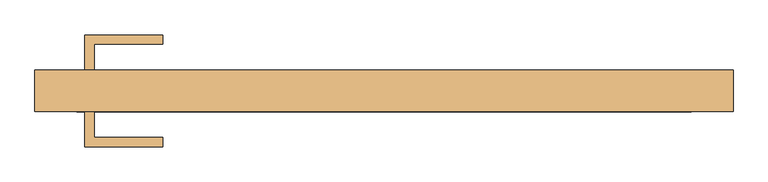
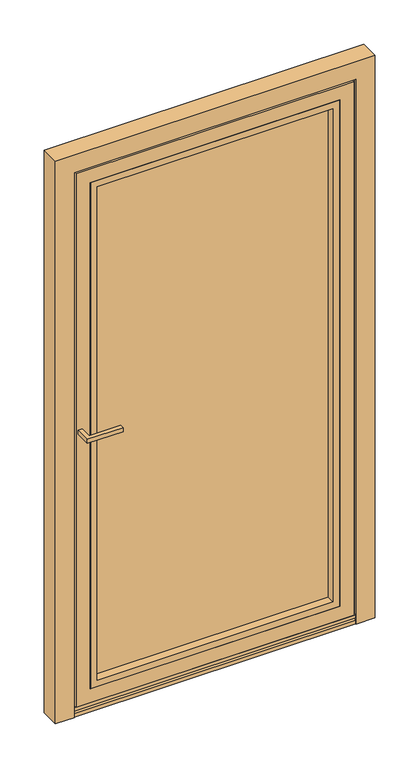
"""IFC4 building model written with IfcOpenShell, lengths in millimetres: door geometry, Reynaers_CS 77_Door_Panel_Outward Opening_Single Vent_One Sided : Reynaers_CS 77_Door_Panel_Outward Opening_Single Vent_One Sided."""

from ifc_helpers import new_model, si_unit, point, frame, frame_2d, origin, place, context, project, spatial, polyline, circle_curve, trimmed, segment, composite_curve, outline, extrude, faceted_brep, source, transform, mapped, element, save


def door_eae7a023(model_context):
    return source(origin(), model_context, "Body", "SolidModel", [
        extrude(outline(polyline([(-488.5, 42.5), (-488.5, 100.0), (-361.0, 100.0), (-361.0, 85.0), (-473.5, 85.0), (-473.5, 42.5), (-488.5, 42.5)])), frame((0.0, 0.0, 1062.5), z_axis=(0.0, 0.0, 1.0), x_axis=(1.0, 0.0, 0.0)), (0.0, 0.0, 1.0), 15.0),
        extrude(outline(polyline([(-488.5, -25.5), (-473.5, -25.5), (-473.5, -68.0), (-361.0, -68.0), (-361.0, -83.0), (-488.5, -83.0), (-488.5, -25.5)])), frame((0.0, 0.0, 1062.5), z_axis=(0.0, 0.0, 1.0), x_axis=(1.0, 0.0, 0.0)), (0.0, 0.0, 1.0), 15.0),
        extrude(outline(polyline([(522.0, 39.5), (-522.0, 39.5), (-522.0, 42.5), (522.0, 42.5), (522.0, 39.5)])), frame((0.0, 0.0, 10.5), z_axis=(0.0, 0.0, 1.0), x_axis=(1.0, 0.0, 0.0)), (0.0, 0.0, 1.0), 2061.5),
        extrude(outline(polyline([(439.0, 4.7), (-439.0, 4.7), (-439.0, 39.5), (439.0, 39.5), (439.0, 4.7)])), frame((0.0, 0.0, 93.5), z_axis=(0.0, 0.0, 1.0), x_axis=(1.0, 0.0, 0.0)), (0.0, 0.0, 1.0), 1895.5),
        faceted_brep([(445.0, -25.5, 1995.0), (445.0, 39.1, 1995.0), (445.0, 39.1, 87.5), (445.0, -25.5, 87.5), (495.9994981, 39.1, 2045.9994981), (495.9994981, 39.1, 36.5005019), (-495.9994981, 39.1, 36.5005019), (-495.9994981, 39.1, 2045.9994981), (-445.0, 39.1, 1995.0), (-445.0, 39.1, 87.5), (-445.0, -25.5, 87.5), (-496.0, -25.5, 2046.0), (-496.0, -25.5, 36.5), (496.0, -25.5, 36.5), (496.0, -25.5, 2046.0), (-445.0, -25.5, 1995.0), (496.0, -16.7, 2046.0), (496.0, -16.7, 36.5), (-496.0, -16.7, 36.5), (-507.0, -16.7, 2057.0), (-507.0, -16.7, 25.5), (507.0, -16.7, 25.5), (507.0, -16.7, 2057.0), (-496.0, -16.7, 2046.0), (-507.0, 33.7, 25.5), (-507.0, 33.7, 2057.0), (507.0, 33.7, 25.5), (507.0, 33.7, 2057.0), (-495.9994981, 33.7, 2045.9994981), (-495.9994981, 33.7, 36.5005019), (495.9994981, 33.7, 36.5005019), (495.9994981, 33.7, 2045.9994981)], [[[0, 1, 2, 3]], [[4, 5, 6, 7], [8, 9, 2, 1]], [[3, 2, 9, 10]], [[11, 12, 13, 14], [0, 3, 10, 15]], [[16, 14, 13, 17]], [[17, 13, 12, 18]], [[19, 20, 21, 22], [16, 17, 18, 23]], [[10, 9, 8, 15]], [[18, 12, 11, 23]], [[24, 20, 19, 25]], [[26, 21, 20, 24]], [[27, 22, 21, 26]], [[27, 26, 24, 25], [28, 29, 30, 31]], [[4, 31, 30, 5]], [[5, 30, 29, 6]], [[6, 29, 28, 7]], [[15, 8, 1, 0]], [[23, 11, 14, 16]], [[25, 19, 22, 27]], [[7, 28, 31, 4]]]),
        faceted_brep([(420.0, -25.5, 1970.0), (420.0, 4.7003, 1970.0), (420.0, 4.7003, 112.5), (420.0, -25.5, 112.5), (444.0, 4.7003, 1994.0), (444.0, 4.7003, 88.5), (-444.0, 4.7003, 88.5), (-444.0, 4.7003, 1994.0), (-420.0, 4.7003, 1970.0), (-420.0, 4.7003, 112.5), (-420.0, -25.5, 112.5), (-444.0, -25.5, 1994.0), (-444.0, -25.5, 88.5), (444.0, -25.5, 88.5), (444.0, -25.5, 1994.0), (-420.0, -25.5, 1970.0)], [[[0, 1, 2, 3]], [[4, 5, 6, 7], [8, 9, 2, 1]], [[3, 2, 9, 10]], [[11, 12, 13, 14], [0, 3, 10, 15]], [[4, 14, 13, 5]], [[5, 13, 12, 6]], [[10, 9, 8, 15]], [[6, 12, 11, 7]], [[15, 8, 1, 0]], [[7, 11, 14, 4]]]),
        faceted_brep([(-528.0, 33.7, 0.0), (-517.0, 33.7, 0.0), (-517.0, -21.7, 0.0), (-502.0, -21.7, 0.0), (-502.0, -25.5, 0.0), (-570.0, -25.5, 0.0), (-570.0, 42.5, 0.0), (-528.0, 42.5, 0.0), (-528.0, 33.7, 2078.0), (528.0, 33.7, 2078.0), (528.0, 33.7, 0.0), (517.0, 33.7, 0.0), (517.0, 33.7, 2067.0), (-517.0, 33.7, 2067.0), (-517.0, -21.7, 2067.0), (517.0, -21.7, 2067.0), (517.0, -21.7, 0.0), (502.0, -21.7, 0.0), (502.0, -21.7, 2052.0), (-502.0, -21.7, 2052.0), (-502.0, -25.5, 2052.0), (502.0, -25.5, 2052.0), (502.0, -25.5, 0.0), (570.0, -25.5, 0.0), (570.0, -25.5, 2120.0), (-570.0, -25.5, 2120.0), (-570.0, 42.5, 2120.0), (570.0, 42.5, 2120.0), (570.0, 42.5, 0.0), (528.0, 42.5, 0.0), (528.0, 42.5, 2078.0), (-528.0, 42.5, 2078.0)], [[[0, 1, 2, 3, 4, 5, 6, 7]], [[1, 0, 8, 9, 10, 11, 12, 13]], [[2, 1, 13, 14]], [[3, 2, 14, 15, 16, 17, 18, 19]], [[4, 3, 19, 20]], [[5, 4, 20, 21, 22, 23, 24, 25]], [[6, 5, 25, 26]], [[7, 6, 26, 27, 28, 29, 30, 31]], [[0, 7, 31, 8]], [[9, 30, 29, 10]], [[10, 29, 28, 23, 22, 17, 16, 11]], [[15, 12, 11, 16]], [[27, 24, 23, 28]], [[21, 18, 17, 22]], [[26, 25, 24, 27]], [[8, 31, 30, 9]], [[14, 13, 12, 15]], [[20, 19, 18, 21]]]),
        extrude(outline(polyline([(42.5, 2.2995117), (42.5, 1.0), (-25.5, 1.0), (-25.5, 13.9580175), (-17.7418049, 19.3903642), (-11.5401434, 11.9995117), (33.5, 11.9995117), (33.5, 3.0869097), (42.5, 2.2995117)])), frame((-502.0, 0.0, 0.0), z_axis=(1.0, 0.0, 0.0), x_axis=(0.0, 1.0, 0.0)), (0.0, 0.0, 1.0), 1004.0),
        extrude(outline(composite_curve([segment(polyline([(-25.7, 23.7000068), (-25.7, 36.5), (-16.7, 36.5), (-16.7, 24.7), (-6.2061315, 24.7), (-6.2061315, 23.5137156)]), True, "CONTINUOUS"), segment(trimmed(circle_curve(frame_2d((-1.4247942, 13.643718)), 10.9671344), [point((-6.2061315, 23.5137156))], [point((-9.7328851, 20.8028844))], True, "CARTESIAN"), True, "CONTINUOUS"), segment(trimmed(circle_curve(frame_2d((-17.0631573, 25.7044335)), 8.8180539), [point((-9.7328851, 20.8028844))], [point((-14.5253586, 17.2594557))], False, "CARTESIAN"), True, "CONTINUOUS"), segment(trimmed(circle_curve(frame_2d((-15.3944621, 20.533331)), 3.3872704), [point((-14.5253586, 17.2594557))], [point((-16.5968617, 23.7000068))], False, "CARTESIAN"), True, "CONTINUOUS"), segment(polyline([(-16.5968617, 23.7000068), (-25.7, 23.7000068)]), True, "CONTINUOUS")], self_intersect=False)), frame((-502.0, 0.0, 0.0), z_axis=(1.0, 0.0, 0.0), x_axis=(0.0, 1.0, 0.0)), (0.0, 0.0, 1.0), 1004.0),
    ])


if __name__ == "__main__":
    model = new_model("IFC4")
    model_context = context("Model", 3, world=origin())
    ifc_project = project(units=[si_unit("LENGTHUNIT", "METRE", prefix="MILLI")], contexts=[model_context])
    site = spatial("IfcSite", under=ifc_project)
    building = spatial("IfcBuilding", under=site)
    placement = place(None, origin())
    door_shape = door_eae7a023(model_context)
    element("IfcDoor", 1, ObjectType="Reynaers_CS 77_Door_Panel_Outward Opening_Single Vent_One Sided : Reynaers_CS 77_Door_Panel_Outward Opening_Single Vent_One Sided", at=placement, inside=building, context=model_context, shape_type="MappedRepresentation", body=[
        mapped(door_shape, transform((0.0, 0.0, 0.0), x_axis=(1.0, 0.0, 0.0), y_axis=(0.0, 1.0, 0.0), z_axis=(0.0, 0.0, 1.0))),
    ])
    save(model, "model.ifc")
